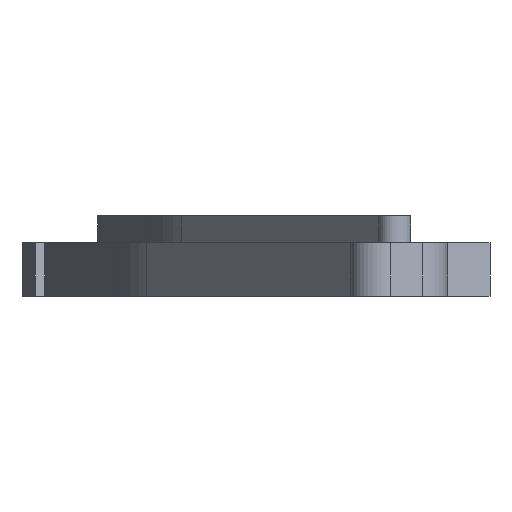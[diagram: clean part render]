
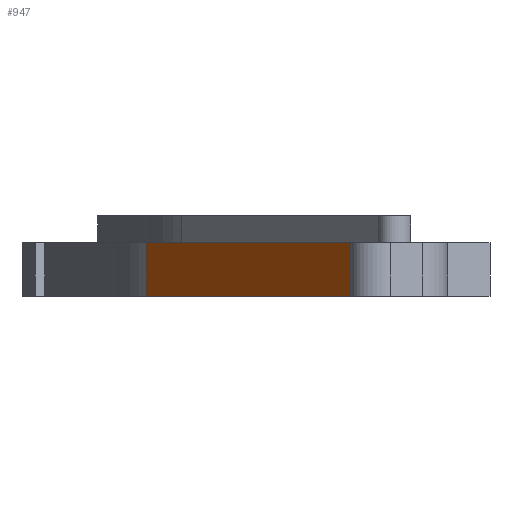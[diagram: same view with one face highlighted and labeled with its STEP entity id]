
A CAD part, front view. The second image highlights one B-rep face of the part: STEP entity #947.
In plain terms, the highlighted planar face has unit normal (-0.972, -0.234, 0).
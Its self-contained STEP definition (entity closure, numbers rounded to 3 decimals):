
#1 = DIRECTION ( 'NONE',  ( -0.234, 0.972, 0. ) ) ;
#13 = EDGE_CURVE ( 'NONE', #57, #207, #519, .T. ) ;
#27 = EDGE_CURVE ( 'NONE', #57, #1463, #991, .T. ) ;
#37 = CARTESIAN_POINT ( 'NONE',  ( 869.666, 2144.942, 12. ) ) ;
#57 = VERTEX_POINT ( 'NONE', #1406 ) ;
#175 = EDGE_CURVE ( 'NONE', #207, #615, #574, .T. ) ;
#207 = VERTEX_POINT ( 'NONE', #402 ) ;
#224 = VECTOR ( 'NONE', #851, 1000. ) ;
#321 = CARTESIAN_POINT ( 'NONE',  ( 915.253, 1955.776, 12. ) ) ;
#333 = ORIENTED_EDGE ( 'NONE', *, *, #401, .F. ) ;
#347 = CARTESIAN_POINT ( 'NONE',  ( 869.666, 2144.942, 12. ) ) ;
#401 = EDGE_CURVE ( 'NONE', #1463, #615, #428, .T. ) ;
#402 = CARTESIAN_POINT ( 'NONE',  ( 869.666, 2144.942, 0. ) ) ;
#428 = LINE ( 'NONE', #321, #1090 ) ;
#454 = EDGE_LOOP ( 'NONE', ( #507, #333, #497, #552 ) ) ;
#497 = ORIENTED_EDGE ( 'NONE', *, *, #27, .F. ) ;
#507 = ORIENTED_EDGE ( 'NONE', *, *, #175, .T. ) ;
#519 = LINE ( 'NONE', #612, #224 ) ;
#552 = ORIENTED_EDGE ( 'NONE', *, *, #13, .T. ) ;
#569 = DIRECTION ( 'NONE',  ( 0.972, 0.234, 0. ) ) ;
#574 = LINE ( 'NONE', #1098, #751 ) ;
#612 = CARTESIAN_POINT ( 'NONE',  ( 869.666, 2144.942, 12. ) ) ;
#615 = VERTEX_POINT ( 'NONE', #894 ) ;
#720 = FACE_OUTER_BOUND ( 'NONE', #454, .T. ) ;
#726 = DIRECTION ( 'NONE',  ( 0.234, -0.972, 0. ) ) ;
#751 = VECTOR ( 'NONE', #1439, 1000. ) ;
#851 = DIRECTION ( 'NONE',  ( 0., 0., -1. ) ) ;
#894 = CARTESIAN_POINT ( 'NONE',  ( 915.253, 1955.776, 0. ) ) ;
#947 = ADVANCED_FACE ( 'NONE', ( #720 ), #1155, .F. ) ;
#991 = LINE ( 'NONE', #37, #1178 ) ;
#1015 = CARTESIAN_POINT ( 'NONE',  ( 915.253, 1955.776, 12. ) ) ;
#1090 = VECTOR ( 'NONE', #1362, 1000. ) ;
#1098 = CARTESIAN_POINT ( 'NONE',  ( 869.666, 2144.942, 0. ) ) ;
#1155 = PLANE ( 'NONE',  #1253 ) ;
#1178 = VECTOR ( 'NONE', #726, 1000. ) ;
#1253 = AXIS2_PLACEMENT_3D ( 'NONE', #347, #569, #1 ) ;
#1362 = DIRECTION ( 'NONE',  ( 0., 0., -1. ) ) ;
#1406 = CARTESIAN_POINT ( 'NONE',  ( 869.666, 2144.942, 12. ) ) ;
#1439 = DIRECTION ( 'NONE',  ( 0.234, -0.972, 0. ) ) ;
#1463 = VERTEX_POINT ( 'NONE', #1015 ) ;
